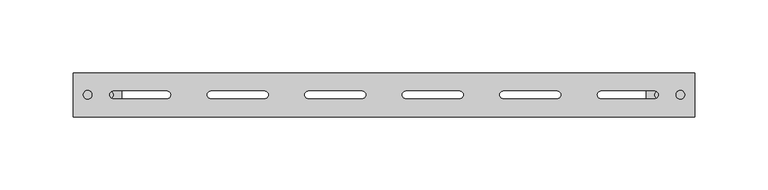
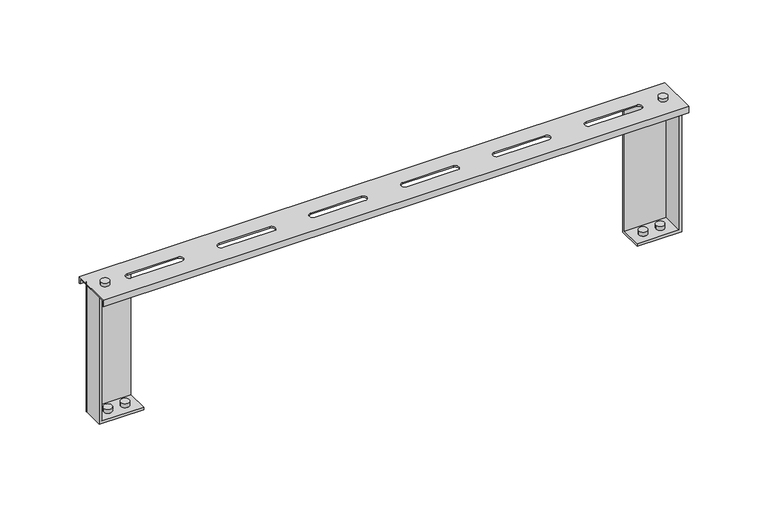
"""IFC4 building model written with IfcOpenShell, lengths in millimetres: cable carrier fitting geometry, CCT_Hyperline_FBTR_EFS_Опора_для_установки_оптического_лотка : Опора для установки оптического лотка."""

import ifcopenshell
import ifcopenshell.guid

model = None  # the IFC model being written
_history = None  # IfcOwnerHistory: only IFC2X3 demands one
_inside = {}  # id of a spatial element -> (the spatial element, [elements in it])
_under = {}  # id of a project, library or spatial element -> (it, [spatial elements below it])
_declared = {}  # id of a project -> (the project, [libraries it declares])
_typed = {}  # id of a type object -> (the type object, [elements of that type])
_made_of = {}  # id of a material, layer set ... -> (it, [elements and type objects made of it])


def new_model(schema):
    """Start an empty IFC model of exactly this schema.

    Asked for "IFC4X3", IfcOpenShell would pick the latest addendum, in which some entities
    have other attributes; the version numbers below select the first issue.
    IFC2X3 requires an IfcOwnerHistory on every rooted entity: one is made here for all.
    """
    global model, _history
    if schema == "IFC4X3":
        model = ifcopenshell.file(schema_version=(4, 3, 0, 0))
    else:
        model = ifcopenshell.file(schema=schema)
    _inside.clear()
    _under.clear()
    _declared.clear()
    _typed.clear()
    _made_of.clear()
    _history = None
    if model.schema == "IFC2X3":
        org = make("IfcOrganization", Name="unknown")
        user = make(
            "IfcPersonAndOrganization",
            ThePerson=make("IfcPerson", FamilyName="unknown"),
            TheOrganization=org,
        )
        app = make(
            "IfcApplication",
            ApplicationDeveloper=org,
            Version="unknown",
            ApplicationFullName="unknown",
            ApplicationIdentifier="unknown",
        )
        _history = make(
            "IfcOwnerHistory",
            OwningUser=user,
            OwningApplication=app,
            ChangeAction="ADDED",
            CreationDate=0,
        )
    return model


def make(cls, **values):
    """One entity of the class cls with the attributes given. An attribute that is None is left unset."""
    return model.create_entity(
        cls, **{name: value for name, value in values.items() if value is not None}
    )


def rooted(cls, **values):
    """An entity with a GlobalId (a new one), such as an element, a storey or a relation."""
    return make(cls, GlobalId=ifcopenshell.guid.new(), OwnerHistory=_history, **values)


def si_unit(unit_type, name, prefix=None):
    """IfcSIUnit, for example si_unit("LENGTHUNIT", "METRE", prefix="MILLI")."""
    return make("IfcSIUnit", UnitType=unit_type, Prefix=prefix, Name=name)


def assignment(units):
    """IfcUnitAssignment: the units of a project."""
    return None if units is None else make("IfcUnitAssignment", Units=units)


def point(xyz):
    """IfcCartesianPoint."""
    return None if xyz is None else make("IfcCartesianPoint", Coordinates=xyz)


def direction(xyz):
    """IfcDirection."""
    return None if xyz is None else make("IfcDirection", DirectionRatios=xyz)


def frame(location, z_axis=None, x_axis=None):
    """IfcAxis2Placement3D, a coordinate frame: its origin and axes. An axis left out is left unset."""
    return make(
        "IfcAxis2Placement3D",
        Location=point(location),
        Axis=direction(z_axis),
        RefDirection=direction(x_axis),
    )


def frame_2d(location, x_axis=None):
    """IfcAxis2Placement2D, a coordinate frame in the plane: its origin and x axis."""
    return make(
        "IfcAxis2Placement2D", Location=point(location), RefDirection=direction(x_axis)
    )


def origin():
    """The frame at (0, 0, 0) with its axes left unset."""
    return frame((0.0, 0.0, 0.0))


def place(relative_to, where):
    """IfcLocalPlacement: puts the frame where relative to a parent placement (None: the world)."""
    return make(
        "IfcLocalPlacement", PlacementRelTo=relative_to, RelativePlacement=where
    )


def context(
    kind, dimensions, precision=None, world=None, true_north=None, identifier=None
):
    """IfcGeometricRepresentationContext, for example the 3D "Model" context."""
    return make(
        "IfcGeometricRepresentationContext",
        ContextIdentifier=identifier,
        ContextType=kind,
        CoordinateSpaceDimension=dimensions,
        Precision=precision,
        WorldCoordinateSystem=world,
        TrueNorth=true_north,
    )


def project(units=None, contexts=None):
    """IfcProject with its units and contexts."""
    return rooted(
        "IfcProject",
        Name="project",
        RepresentationContexts=contexts,
        UnitsInContext=assignment(units),
    )


def spatial(cls, under=None, at=None, **own):
    """A site, building, storey or space (cls), placed at a placement, below another one or the project."""
    s = rooted(cls, ObjectPlacement=at, **own)
    if under is not None:
        _under.setdefault(under.id(), (under, []))[1].append(s)
    return s


def polyline(points):
    """IfcPolyline through the points."""
    return make("IfcPolyline", Points=[point(p) for p in points])


def circle_curve(where, radius):
    """IfcCircle in the frame where."""
    return make("IfcCircle", Position=where, Radius=radius)


def trimmed(basis, trim1, trim2, sense, master):
    """IfcTrimmedCurve: the piece of a basis curve between two trims."""
    return make(
        "IfcTrimmedCurve",
        BasisCurve=basis,
        Trim1=trim1,
        Trim2=trim2,
        SenseAgreement=sense,
        MasterRepresentation=master,
    )


def segment(curve, same_sense, transition):
    """IfcCompositeCurveSegment."""
    return make(
        "IfcCompositeCurveSegment",
        Transition=transition,
        SameSense=same_sense,
        ParentCurve=curve,
    )


def composite_curve(segments, self_intersect=None):
    """IfcCompositeCurve: segments joined end to end."""
    return make("IfcCompositeCurve", Segments=segments, SelfIntersect=self_intersect)


def outline(outer, holes=None, kind="AREA"):
    """IfcArbitraryClosedProfileDef: a profile drawn as a closed curve; with holes, ...WithVoids."""
    if holes is None:
        return make("IfcArbitraryClosedProfileDef", ProfileType=kind, OuterCurve=outer)
    return make(
        "IfcArbitraryProfileDefWithVoids",
        ProfileType=kind,
        OuterCurve=outer,
        InnerCurves=holes,
    )


def extrude(swept, where, along, depth):
    """IfcExtrudedAreaSolid: the profile swept, set in the frame where, extruded along a direction by depth."""
    return make(
        "IfcExtrudedAreaSolid",
        SweptArea=swept,
        Position=where,
        ExtrudedDirection=direction(along),
        Depth=depth,
    )


def shape(context_of_items, identifier, shape_type, items):
    """IfcShapeRepresentation: the items that make up one representation, for example the "Body"."""
    return make(
        "IfcShapeRepresentation",
        ContextOfItems=context_of_items,
        RepresentationIdentifier=identifier,
        RepresentationType=shape_type,
        Items=items,
    )


def source(mapping_origin, context_of_items, identifier, shape_type, items):
    """IfcRepresentationMap: a shape defined once, which mapped items show again and again."""
    return make(
        "IfcRepresentationMap",
        MappingOrigin=mapping_origin,
        MappedRepresentation=shape(context_of_items, identifier, shape_type, items),
    )


def transform(
    local_origin,
    x_axis=None,
    y_axis=None,
    z_axis=None,
    scale=None,
    scale2=None,
    scale3=None,
    uniform=True,
):
    """IfcCartesianTransformationOperator3D, or its non-uniform kind. x_axis, y_axis, z_axis: its Axis1, 2, 3."""
    if uniform:
        return make(
            "IfcCartesianTransformationOperator3D",
            Axis1=direction(x_axis),
            Axis2=direction(y_axis),
            LocalOrigin=point(local_origin),
            Scale=scale,
            Axis3=direction(z_axis),
        )
    return make(
        "IfcCartesianTransformationOperator3DnonUniform",
        Axis1=direction(x_axis),
        Axis2=direction(y_axis),
        LocalOrigin=point(local_origin),
        Scale=scale,
        Axis3=direction(z_axis),
        Scale2=scale2,
        Scale3=scale3,
    )


def mapped(mapping_source, mapping_target):
    """IfcMappedItem: shows the shape of a source again, moved by a transform."""
    return make(
        "IfcMappedItem", MappingSource=mapping_source, MappingTarget=mapping_target
    )


def made_of(thing, what):
    """Note that an element or type object is made of a material, layer set ...; save() writes the relation."""
    if what is not None:
        _made_of.setdefault(what.id(), (what, []))[1].append(thing)
    return thing


def element(
    cls,
    number,
    at=None,
    inside=None,
    cuts=None,
    type_object=None,
    material=None,
    context=None,
    identifier="Body",
    shape_type=None,
    held_by="IfcProductDefinitionShape",
    body=None,
    shapes=None,
    **own,
):
    """One element of the class cls, such as IfcWall. Its Tag is "e" and its number.

    at: its placement. inside: the storey or other place that contains it. cuts: it is an
    opening in that element (IfcRelVoidsElement). A single representation is given by context,
    identifier, shape_type and body (its items); several are given by shapes. held_by: the class
    of the entity that holds the representations. save() writes the other relations.
    """
    e = rooted(cls, Tag="e%d" % number, ObjectPlacement=at, **own)
    if body is not None:
        shapes = [shape(context, identifier, shape_type, body)]
    if shapes is not None:
        e.Representation = make(held_by, Representations=shapes)
    if inside is not None:
        _inside.setdefault(inside.id(), (inside, []))[1].append(e)
    if cuts is not None:
        rooted(
            "IfcRelVoidsElement", RelatingBuildingElement=cuts, RelatedOpeningElement=e
        )
    if type_object is not None:
        _typed.setdefault(type_object.id(), (type_object, []))[1].append(e)
    return made_of(e, material)


def aggregate(whole, parts):
    """IfcRelAggregates: a whole, such as a stair, and the parts it consists of."""
    return rooted("IfcRelAggregates", RelatingObject=whole, RelatedObjects=parts)


def save(model, path):
    """Write the relations noted so far, then the file.

    IfcRelAggregates (storeys below a building ...), IfcRelContainedInSpatialStructure (elements
    in a storey), IfcRelDefinesByType, IfcRelAssociatesMaterial and IfcRelDeclares: one each for
    every whole, place, type object, material and project.
    """
    for whole, parts in _under.values():
        aggregate(whole, parts)
    for where, things in _inside.values():
        rooted(
            "IfcRelContainedInSpatialStructure",
            RelatedElements=things,
            RelatingStructure=where,
        )
    for kind, things in _typed.values():
        rooted("IfcRelDefinesByType", RelatedObjects=things, RelatingType=kind)
    for what, things in _made_of.values():
        rooted("IfcRelAssociatesMaterial", RelatedObjects=things, RelatingMaterial=what)
    for by, libraries in _declared.values():
        rooted("IfcRelDeclares", RelatingContext=by, RelatedDefinitions=libraries)
    model.write(path)


def plane_surface(at):
    """IfcPlane: the flat surface through the origin of the frame at, square to its z axis."""
    return make("IfcPlane", Position=at)


def cylinder_surface(at, radius):
    """IfcCylindricalSurface: all points at the distance radius from the z axis of the frame at."""
    return make("IfcCylindricalSurface", Position=at, Radius=radius)


def revolved_surface(curve, axis_point, axis_direction):
    """IfcSurfaceOfRevolution: the curve turned about the line through axis_point along axis_direction."""
    return make(
        "IfcSurfaceOfRevolution",
        SweptCurve=make("IfcArbitraryOpenProfileDef", ProfileType="CURVE", Curve=curve),
        AxisPosition=make("IfcAxis1Placement", Location=point(axis_point), Axis=direction(axis_direction)),
    )


def advanced_brep(points, edges, surfaces, faces):
    """IfcAdvancedBrep: a solid bounded by faces that lie on surfaces and meet in shared edges.

    An edge is (start, end): straight between two places in points (the first is 0);
    or (start, end, curve); or (start, end, curve, False) where it runs against its curve.
    A face is (place in surfaces, loops), or (place, loops, False) where it looks against
    its surface's normal. A loop lists edges by number (the first is 1), with a minus sign
    where the edge is run from its end to its start. The first loop is the outer one.
    """
    corners = [point(p) for p in points]
    vertices = [make("IfcVertexPoint", VertexGeometry=c) for c in corners]
    made = []
    for start, end, *more in edges:
        made.append(
            make(
                "IfcEdgeCurve",
                EdgeStart=vertices[start],
                EdgeEnd=vertices[end],
                EdgeGeometry=more[0] if more else make("IfcPolyline", Points=[corners[start], corners[end]]),
                SameSense=more[1] if len(more) > 1 else True,
            )
        )
    hull = []
    for where, loops, *sense in faces:
        bounds = []
        for j, loop in enumerate(loops):
            ring = [make("IfcOrientedEdge", EdgeElement=made[abs(k) - 1], Orientation=k > 0) for k in loop]
            bounds.append(
                make(
                    "IfcFaceOuterBound" if j == 0 else "IfcFaceBound",
                    Bound=make("IfcEdgeLoop", EdgeList=ring),
                    Orientation=True,
                )
            )
        hull.append(make("IfcAdvancedFace", Bounds=bounds, FaceSurface=surfaces[where], SameSense=sense[0] if sense else True))
    return make("IfcAdvancedBrep", Outer=make("IfcClosedShell", CfsFaces=hull))


def cable_carrier_fitting_59de4e2b(model_context):
    return source(origin(), model_context, "Body", "SolidModel", [
        advanced_brep(
        [(179.2573593, 10.0, 99.0), (179.2573593, 8.0, 99.0), (209.5, 8.0, 99.0), (209.5, -8.0, 99.0), (211.5, -8.0, 99.0), (211.5, 7.8786797, 99.0), (209.3786797, 10.0, 99.0), (211.5, 7.8786797, 2.0), (209.3786797, 10.0, 2.0), (209.5, 8.0, 2.0), (209.5, -8.0, 2.0), (179.2573593, 8.0, 2.0), (179.2573593, -8.0, 2.0), (191.1286617, 0.0, 2.0), (185.1286617, 0.0, 2.0), (203.6286976, 0.0, 2.0), (197.6286976, 0.0, 2.0), (179.2573593, -8.0, 0.0), (179.2573593, 10.0, 0.0), (209.3786797, 10.0, 0.0), (211.5, 7.8786797, 0.0), (211.5, -8.0, 0.0), (185.1286617, 0.0, 0.0), (191.1286617, 0.0, 0.0), (197.6286976, 0.0, 0.0), (203.6286976, 0.0, 0.0), (191.1286617, 0.0, 5.0), (185.1286617, 0.0, 5.0), (191.1286617, 0.0, -3.0), (185.1286617, 0.0, -3.0), (197.6286976, 0.0, 5.0), (203.6286976, 0.0, 5.0), (197.6286976, 0.0, -3.0), (203.6286976, 0.0, -3.0)],
        [
            (0, 1),
            (1, 2),
            (2, 3),
            (3, 4),
            (4, 5),
            (5, 6, circle_curve(frame((209.3786797, 7.8786797, 99.0), z_axis=(0.0, 0.0, 1.0), x_axis=(-1.0, 0.0, 0.0)), 2.1213203)),
            (6, 0),
            (5, 7),
            (7, 8, circle_curve(frame((209.3786797, 7.8786797, 2.0), z_axis=(0.0, 0.0, 1.0), x_axis=(-1.0, 0.0, 0.0)), 2.1213203)),
            (8, 6),
            (2, 9),
            (9, 10),
            (10, 3),
            (1, 11),
            (11, 9),
            (12, 10),
            (11, 12),
            (13, 14, circle_curve(frame((188.1286617, 0.0, 2.0), z_axis=(0.0, 0.0, -1.0), x_axis=(-1.0, 0.0, 0.0)), 3.0)),
            (14, 13, circle_curve(frame((188.1286617, 0.0, 2.0), z_axis=(0.0, 0.0, -1.0), x_axis=(-1.0, 0.0, 0.0)), 3.0)),
            (15, 16, circle_curve(frame((200.6286976, 0.0, 2.0), z_axis=(0.0, 0.0, -1.0), x_axis=(1.0, 0.0, 0.0)), 3.0)),
            (16, 15, circle_curve(frame((200.6286976, 0.0, 2.0), z_axis=(0.0, 0.0, -1.0), x_axis=(1.0, 0.0, 0.0)), 3.0)),
            (17, 18),
            (18, 19),
            (19, 20, circle_curve(frame((209.3786797, 7.8786797, 0.0), z_axis=(0.0, 0.0, -1.0), x_axis=(-1.0, 0.0, 0.0)), 2.1213203)),
            (20, 21),
            (21, 17),
            (22, 23, circle_curve(frame((188.1286617, 0.0, 0.0), z_axis=(0.0, 0.0, 1.0), x_axis=(-1.0, 0.0, 0.0)), 3.0)),
            (23, 22, circle_curve(frame((188.1286617, 0.0, 0.0), z_axis=(0.0, 0.0, 1.0), x_axis=(-1.0, 0.0, 0.0)), 3.0)),
            (24, 25, circle_curve(frame((200.6286976, 0.0, 0.0), z_axis=(0.0, 0.0, 1.0), x_axis=(1.0, 0.0, 0.0)), 3.0)),
            (25, 24, circle_curve(frame((200.6286976, 0.0, 0.0), z_axis=(0.0, 0.0, 1.0), x_axis=(1.0, 0.0, 0.0)), 3.0)),
            (17, 12),
            (0, 18),
            (8, 19),
            (7, 20),
            (4, 21),
            (26, 27, circle_curve(frame((188.1286617, 0.0, 5.0), z_axis=(0.0, 0.0, 1.0), x_axis=(-1.0, 0.0, 0.0)), 3.0)),
            (27, 26, circle_curve(frame((188.1286617, 0.0, 5.0), z_axis=(0.0, 0.0, 1.0), x_axis=(-1.0, 0.0, 0.0)), 3.0)),
            (28, 29, circle_curve(frame((188.1286617, 0.0, -3.0), z_axis=(0.0, 0.0, -1.0), x_axis=(-1.0, 0.0, 0.0)), 3.0)),
            (29, 28, circle_curve(frame((188.1286617, 0.0, -3.0), z_axis=(0.0, 0.0, -1.0), x_axis=(-1.0, 0.0, 0.0)), 3.0)),
            (27, 14),
            (13, 26),
            (28, 23),
            (22, 29),
            (30, 31, circle_curve(frame((200.6286976, 0.0, 5.0), z_axis=(0.0, 0.0, 1.0), x_axis=(1.0, 0.0, 0.0)), 3.0)),
            (31, 30, circle_curve(frame((200.6286976, 0.0, 5.0), z_axis=(0.0, 0.0, 1.0), x_axis=(1.0, 0.0, 0.0)), 3.0)),
            (32, 33, circle_curve(frame((200.6286976, 0.0, -3.0), z_axis=(0.0, 0.0, -1.0), x_axis=(1.0, 0.0, 0.0)), 3.0)),
            (33, 32, circle_curve(frame((200.6286976, 0.0, -3.0), z_axis=(0.0, 0.0, -1.0), x_axis=(1.0, 0.0, 0.0)), 3.0)),
            (30, 16),
            (15, 31),
            (33, 25),
            (24, 32),
        ],
        [
            plane_surface(frame((179.2573593, 8.0, 99.0), z_axis=(0.0, 0.0, 1.0), x_axis=(0.0, -1.0, 0.0))),
            cylinder_surface(frame((209.3786797, 7.8786797, 2.0), z_axis=(0.0, 0.0, 1.0), x_axis=(-1.0, 0.0, 0.0)), 2.1213203),
            plane_surface(frame((209.5, 8.0, 99.0), z_axis=(-1.0, 0.0, 0.0), x_axis=(0.0, 0.0, -1.0))),
            plane_surface(frame((179.2573593, 8.0, 99.0), z_axis=(0.0, -1.0, 0.0), x_axis=(0.0, 0.0, -1.0))),
            plane_surface(frame((211.5, -8.0, 2.0), z_axis=(0.0, 0.0, 1.0), x_axis=(1.0, 0.0, 0.0))),
            plane_surface(frame((211.5, -8.0, 0.0), z_axis=(0.0, 0.0, -1.0), x_axis=(-1.0, 0.0, 0.0))),
            plane_surface(frame((179.2573593, 10.0, 2.0), z_axis=(-1.0, 0.0, 0.0), x_axis=(0.0, 0.0, -1.0))),
            plane_surface(frame((209.3786797, 10.0, 2.0), z_axis=(0.0, 1.0, 0.0), x_axis=(0.0, 0.0, -1.0))),
            cylinder_surface(frame((209.3786797, 7.8786797, 0.0), z_axis=(0.0, 0.0, 1.0), x_axis=(-1.0, 0.0, 0.0)), 2.1213203),
            plane_surface(frame((211.5, -8.0, 2.0), z_axis=(1.0, 0.0, 0.0), x_axis=(0.0, 0.0, -1.0))),
            plane_surface(frame((179.2573593, -8.0, 2.0), z_axis=(0.0, -1.0, 0.0), x_axis=(0.0, 0.0, -1.0))),
            plane_surface(frame((185.1286617, 0.0, 5.0), z_axis=(0.0, 0.0, 1.0), x_axis=(0.0, -1.0, 0.0))),
            plane_surface(frame((185.1286617, 0.0, -3.0), z_axis=(0.0, 0.0, -1.0), x_axis=(0.0, 1.0, 0.0))),
            cylinder_surface(frame((188.1286617, 0.0, -3.0), z_axis=(0.0, 0.0, 1.0), x_axis=(-1.0, 0.0, 0.0)), 3.0),
            plane_surface(frame((203.6286976, 0.0, 5.0), z_axis=(0.0, 0.0, 1.0), x_axis=(0.0, 1.0, 0.0))),
            plane_surface(frame((203.6286976, 0.0, -3.0), z_axis=(0.0, 0.0, -1.0), x_axis=(0.0, -1.0, 0.0))),
            cylinder_surface(frame((200.6286976, 0.0, -3.0), z_axis=(0.0, 0.0, 1.0), x_axis=(1.0, 0.0, 0.0)), 3.0),
        ],
        [
            (0, [[1, 2, 3, 4, 5, 6, 7]]),
            (1, [[-6, 8, 9, 10]]),
            (2, [[-3, 11, 12, 13]]),
            (3, [[-2, 14, 15, -11]]),
            (4, [[16, -12, -15, 17], [18, 19], [20, 21]]),
            (5, [[22, 23, 24, 25, 26], [27, 28], [29, 30]]),
            (6, [[-22, 31, -17, -14, -1, 32]]),
            (7, [[-23, -32, -7, -10, 33]]),
            (8, [[-24, -33, -9, 34]]),
            (9, [[-25, -34, -8, -5, 35]]),
            (10, [[-26, -35, -4, -13, -16, -31]]),
            (11, [[36, 37]]),
            (12, [[38, 39]]),
            (13, [[-37, 40, -18, 41]]),
            (13, [[-38, 42, -27, 43]]),
            (13, [[-36, -41, -19, -40]]),
            (13, [[-39, -43, -28, -42]]),
            (14, [[44, 45]]),
            (15, [[46, 47]]),
            (16, [[-44, 48, -20, 49]]),
            (16, [[-47, 50, -29, 51]]),
            (16, [[-45, -49, -21, -48]]),
            (16, [[-46, -51, -30, -50]]),
        ],
    ),
        advanced_brep(
        [(-179.2573593, 10.0, 99.0), (-209.3786797, 10.0, 99.0), (-211.5, 7.8786797, 99.0), (-211.5, -8.0, 99.0), (-209.5, -8.0, 99.0), (-209.5, 8.0, 99.0), (-179.2573593, 8.0, 99.0), (-209.3786797, 10.0, 2.0), (-211.5, 7.8786797, 2.0), (-209.5, -8.0, 2.0), (-209.5, 8.0, 2.0), (-179.2573593, 8.0, 2.0), (-179.2573593, -8.0, 2.0), (-197.6286976, 0.0, 2.0), (-203.6286976, 0.0, 2.0), (-185.1286617, 0.0, 2.0), (-191.1286617, 0.0, 2.0), (-179.2573593, -8.0, 0.0), (-211.5, -8.0, 0.0), (-211.5, 7.8786797, 0.0), (-209.3786797, 10.0, 0.0), (-179.2573593, 10.0, 0.0), (-191.1286617, 0.0, 0.0), (-185.1286617, 0.0, 0.0), (-203.6286976, 0.0, 0.0), (-197.6286976, 0.0, 0.0), (-197.6286976, 0.0, 5.0), (-203.6286976, 0.0, 5.0), (-197.6286976, 0.0, -3.0), (-203.6286976, 0.0, -3.0), (-191.1286617, 0.0, 5.0), (-185.1286617, 0.0, 5.0), (-191.1286617, 0.0, -3.0), (-185.1286617, 0.0, -3.0)],
        [
            (0, 1),
            (1, 2, circle_curve(frame((-209.3786797, 7.8786797, 99.0), z_axis=(0.0, 0.0, 1.0), x_axis=(1.0, 0.0, 0.0)), 2.1213203)),
            (2, 3),
            (3, 4),
            (4, 5),
            (5, 6),
            (6, 0),
            (1, 7),
            (7, 8, circle_curve(frame((-209.3786797, 7.8786797, 2.0), z_axis=(0.0, 0.0, 1.0), x_axis=(1.0, 0.0, 0.0)), 2.1213203)),
            (8, 2),
            (4, 9),
            (9, 10),
            (10, 5),
            (10, 11),
            (11, 6),
            (12, 11),
            (9, 12),
            (13, 14, circle_curve(frame((-200.6286976, 0.0, 2.0), z_axis=(0.0, 0.0, -1.0), x_axis=(-1.0, 0.0, 0.0)), 3.0)),
            (14, 13, circle_curve(frame((-200.6286976, 0.0, 2.0), z_axis=(0.0, 0.0, -1.0), x_axis=(-1.0, 0.0, 0.0)), 3.0)),
            (15, 16, circle_curve(frame((-188.1286617, 0.0, 2.0), z_axis=(0.0, 0.0, -1.0), x_axis=(1.0, 0.0, 0.0)), 3.0)),
            (16, 15, circle_curve(frame((-188.1286617, 0.0, 2.0), z_axis=(0.0, 0.0, -1.0), x_axis=(1.0, 0.0, 0.0)), 3.0)),
            (17, 18),
            (18, 19),
            (19, 20, circle_curve(frame((-209.3786797, 7.8786797, 0.0), z_axis=(0.0, 0.0, -1.0), x_axis=(1.0, 0.0, 0.0)), 2.1213203)),
            (20, 21),
            (21, 17),
            (22, 23, circle_curve(frame((-188.1286617, 0.0, 0.0), z_axis=(0.0, 0.0, 1.0), x_axis=(1.0, 0.0, 0.0)), 3.0)),
            (23, 22, circle_curve(frame((-188.1286617, 0.0, 0.0), z_axis=(0.0, 0.0, 1.0), x_axis=(1.0, 0.0, 0.0)), 3.0)),
            (24, 25, circle_curve(frame((-200.6286976, 0.0, 0.0), z_axis=(0.0, 0.0, 1.0), x_axis=(-1.0, 0.0, 0.0)), 3.0)),
            (25, 24, circle_curve(frame((-200.6286976, 0.0, 0.0), z_axis=(0.0, 0.0, 1.0), x_axis=(-1.0, 0.0, 0.0)), 3.0)),
            (21, 0),
            (12, 17),
            (20, 7),
            (19, 8),
            (18, 3),
            (26, 27, circle_curve(frame((-200.6286976, 0.0, 5.0), z_axis=(0.0, 0.0, 1.0), x_axis=(-1.0, 0.0, 0.0)), 3.0)),
            (27, 26, circle_curve(frame((-200.6286976, 0.0, 5.0), z_axis=(0.0, 0.0, 1.0), x_axis=(-1.0, 0.0, 0.0)), 3.0)),
            (28, 29, circle_curve(frame((-200.6286976, 0.0, -3.0), z_axis=(0.0, 0.0, -1.0), x_axis=(-1.0, 0.0, 0.0)), 3.0)),
            (29, 28, circle_curve(frame((-200.6286976, 0.0, -3.0), z_axis=(0.0, 0.0, -1.0), x_axis=(-1.0, 0.0, 0.0)), 3.0)),
            (27, 14),
            (13, 26),
            (28, 25),
            (24, 29),
            (30, 31, circle_curve(frame((-188.1286617, 0.0, 5.0), z_axis=(0.0, 0.0, 1.0), x_axis=(1.0, 0.0, 0.0)), 3.0)),
            (31, 30, circle_curve(frame((-188.1286617, 0.0, 5.0), z_axis=(0.0, 0.0, 1.0), x_axis=(1.0, 0.0, 0.0)), 3.0)),
            (32, 33, circle_curve(frame((-188.1286617, 0.0, -3.0), z_axis=(0.0, 0.0, -1.0), x_axis=(1.0, 0.0, 0.0)), 3.0)),
            (33, 32, circle_curve(frame((-188.1286617, 0.0, -3.0), z_axis=(0.0, 0.0, -1.0), x_axis=(1.0, 0.0, 0.0)), 3.0)),
            (30, 16),
            (15, 31),
            (33, 23),
            (22, 32),
        ],
        [
            plane_surface(frame((-209.3786797, 10.0, 99.0), z_axis=(0.0, 0.0, 1.0), x_axis=(-1.0, 0.0, 0.0))),
            cylinder_surface(frame((-209.3786797, 7.8786797, 2.0), z_axis=(0.0, 0.0, 1.0), x_axis=(1.0, 0.0, 0.0)), 2.1213203),
            plane_surface(frame((-209.5, -8.0, 99.0), z_axis=(1.0, 0.0, 0.0), x_axis=(0.0, 0.0, -1.0))),
            plane_surface(frame((-209.5, 8.0, 99.0), z_axis=(0.0, -1.0, 0.0), x_axis=(0.0, 0.0, -1.0))),
            plane_surface(frame((-179.2573593, -8.0, 2.0), z_axis=(0.0, 0.0, 1.0), x_axis=(0.0, 1.0, 0.0))),
            plane_surface(frame((-179.2573593, -8.0, 0.0), z_axis=(0.0, 0.0, -1.0), x_axis=(0.0, -1.0, 0.0))),
            plane_surface(frame((-179.2573593, -8.0, 2.0), z_axis=(1.0, 0.0, 0.0), x_axis=(0.0, 0.0, -1.0))),
            plane_surface(frame((-179.2573593, 10.0, 2.0), z_axis=(0.0, 1.0, 0.0), x_axis=(0.0, 0.0, -1.0))),
            cylinder_surface(frame((-209.3786797, 7.8786797, 0.0), z_axis=(0.0, 0.0, 1.0), x_axis=(1.0, 0.0, 0.0)), 2.1213203),
            plane_surface(frame((-211.5, 7.8786797, 2.0), z_axis=(-1.0, 0.0, 0.0), x_axis=(0.0, 0.0, -1.0))),
            plane_surface(frame((-211.5, -8.0, 2.0), z_axis=(0.0, -1.0, 0.0), x_axis=(0.0, 0.0, -1.0))),
            plane_surface(frame((-203.6286976, 0.0, 5.0), z_axis=(0.0, 0.0, 1.0), x_axis=(0.0, -1.0, 0.0))),
            plane_surface(frame((-203.6286976, 0.0, -3.0), z_axis=(0.0, 0.0, -1.0), x_axis=(0.0, 1.0, 0.0))),
            cylinder_surface(frame((-200.6286976, 0.0, -3.0), z_axis=(0.0, 0.0, 1.0), x_axis=(-1.0, 0.0, 0.0)), 3.0),
            plane_surface(frame((-185.1286617, 0.0, 5.0), z_axis=(0.0, 0.0, 1.0), x_axis=(0.0, 1.0, 0.0))),
            plane_surface(frame((-185.1286617, 0.0, -3.0), z_axis=(0.0, 0.0, -1.0), x_axis=(0.0, -1.0, 0.0))),
            cylinder_surface(frame((-188.1286617, 0.0, -3.0), z_axis=(0.0, 0.0, 1.0), x_axis=(1.0, 0.0, 0.0)), 3.0),
        ],
        [
            (0, [[1, 2, 3, 4, 5, 6, 7]]),
            (1, [[-2, 8, 9, 10]]),
            (2, [[-5, 11, 12, 13]]),
            (3, [[-6, -13, 14, 15]]),
            (4, [[16, -14, -12, 17], [18, 19], [20, 21]]),
            (5, [[22, 23, 24, 25, 26], [27, 28], [29, 30]]),
            (6, [[-26, 31, -7, -15, -16, 32]]),
            (7, [[-25, 33, -8, -1, -31]]),
            (8, [[-24, 34, -9, -33]]),
            (9, [[-23, 35, -3, -10, -34]]),
            (10, [[-22, -32, -17, -11, -4, -35]]),
            (11, [[36, 37]]),
            (12, [[38, 39]]),
            (13, [[-37, 40, -18, 41]]),
            (13, [[-38, 42, -29, 43]]),
            (13, [[-36, -41, -19, -40]]),
            (13, [[-39, -43, -30, -42]]),
            (14, [[44, 45]]),
            (15, [[46, 47]]),
            (16, [[-44, 48, -20, 49]]),
            (16, [[-47, 50, -27, 51]]),
            (16, [[-45, -49, -21, -48]]),
            (16, [[-46, -51, -28, -50]]),
        ],
    ),
        extrude(outline(composite_curve([segment(trimmed(circle_curve(frame_2d((-202.6286976, 0.0)), 3.0), [point((-199.6286976, 0.0))], [point((-205.6286976, 0.0))], False, "CARTESIAN"), True, "CONTINUOUS"), segment(trimmed(circle_curve(frame_2d((-202.6286976, 0.0)), 3.0), [point((-205.6286976, 0.0))], [point((-199.6286976, 0.0))], False, "CARTESIAN"), True, "CONTINUOUS")], self_intersect=False)), frame((0.0, 0.0, 100.0), z_axis=(0.0, 0.0, 1.0), x_axis=(1.0, 0.0, 0.0)), (0.0, 0.0, 1.0), 2.5),
        extrude(outline(composite_curve([segment(trimmed(circle_curve(frame_2d((202.6286976, 0.0)), 3.0), [point((199.6286976, 0.0))], [point((205.6286976, 0.0))], False, "CARTESIAN"), True, "CONTINUOUS"), segment(trimmed(circle_curve(frame_2d((202.6286976, 0.0)), 3.0), [point((205.6286976, 0.0))], [point((199.6286976, 0.0))], False, "CARTESIAN"), True, "CONTINUOUS")], self_intersect=False)), frame((0.0, 0.0, 100.0), z_axis=(0.0, 0.0, 1.0), x_axis=(1.0, 0.0, 0.0)), (0.0, 0.0, 1.0), 2.5),
        advanced_brep(
        [(-212.5, -15.0, 100.0), (-212.5, 15.0, 100.0), (-212.5, 15.0, 95.0), (-212.5, 14.0, 95.0), (-212.5, 14.0, 99.0), (-212.5, -14.0, 99.0), (-212.5, -14.0, 95.0), (-212.5, -15.0, 95.0), (212.5, -15.0, 100.0), (212.5, 15.0, 100.0), (81.6666667, 2.5, 100.0), (118.3333333, 2.5, 100.0), (118.3333333, -2.5, 100.0), (81.6666667, -2.5, 100.0), (-51.6666667, 2.5, 100.0), (-15.0, 2.5, 100.0), (-15.0, -2.5, 100.0), (-51.6666667, -2.5, 100.0), (15.0, 2.5, 100.0), (51.6666667, 2.5, 100.0), (51.6666667, -2.5, 100.0), (15.0, -2.5, 100.0), (148.3333333, 2.5, 100.0), (185.0, 2.5, 100.0), (185.0, -2.5, 100.0), (148.3333333, -2.5, 100.0), (-118.3333333, 2.5, 100.0), (-81.6666667, 2.5, 100.0), (-81.6666667, -2.5, 100.0), (-118.3333333, -2.5, 100.0), (-185.0, 2.5, 100.0), (-148.3333333, 2.5, 100.0), (-148.3333333, -2.5, 100.0), (-185.0, -2.5, 100.0), (212.5, 14.0, 99.0), (212.5, -14.0, 99.0), (-15.0, 2.5, 99.0), (-51.6666667, 2.5, 99.0), (-51.6666667, -2.5, 99.0), (-15.0, -2.5, 99.0), (51.6666667, 2.5, 99.0), (15.0, 2.5, 99.0), (15.0, -2.5, 99.0), (51.6666667, -2.5, 99.0), (118.3333333, 2.5, 99.0), (81.6666667, 2.5, 99.0), (81.6666667, -2.5, 99.0), (118.3333333, -2.5, 99.0), (185.0, 2.5, 99.0), (148.3333333, 2.5, 99.0), (148.3333333, -2.5, 99.0), (185.0, -2.5, 99.0), (-81.6666667, 2.5, 99.0), (-118.3333333, 2.5, 99.0), (-118.3333333, -2.5, 99.0), (-81.6666667, -2.5, 99.0), (-148.3333333, 2.5, 99.0), (-185.0, 2.5, 99.0), (-185.0, -2.5, 99.0), (-148.3333333, -2.5, 99.0), (212.5, -14.0, 95.0), (212.5, -15.0, 95.0), (212.5, 14.0, 95.0), (212.5, 15.0, 95.0)],
        [
            (0, 1),
            (1, 2),
            (2, 3),
            (3, 4),
            (4, 5),
            (5, 6),
            (6, 7),
            (7, 0),
            (0, 8),
            (8, 9),
            (9, 1),
            (10, 11),
            (11, 12, circle_curve(frame((118.3333333, 0.0, 100.0), z_axis=(0.0, 0.0, -1.0), x_axis=(1.0, 0.0, 0.0)), 2.5)),
            (12, 13),
            (13, 10, circle_curve(frame((81.6666667, 0.0, 100.0), z_axis=(0.0, 0.0, -1.0), x_axis=(1.0, 0.0, 0.0)), 2.5)),
            (14, 15),
            (15, 16, circle_curve(frame((-15.0, 0.0, 100.0), z_axis=(0.0, 0.0, -1.0), x_axis=(1.0, 0.0, 0.0)), 2.5)),
            (16, 17),
            (17, 14, circle_curve(frame((-51.6666667, 0.0, 100.0), z_axis=(0.0, 0.0, -1.0), x_axis=(1.0, 0.0, 0.0)), 2.5)),
            (18, 19),
            (19, 20, circle_curve(frame((51.6666667, 0.0, 100.0), z_axis=(0.0, 0.0, -1.0), x_axis=(1.0, 0.0, 0.0)), 2.5)),
            (20, 21),
            (21, 18, circle_curve(frame((15.0, 0.0, 100.0), z_axis=(0.0, 0.0, -1.0), x_axis=(1.0, 0.0, 0.0)), 2.5)),
            (22, 23),
            (23, 24, circle_curve(frame((185.0, 0.0, 100.0), z_axis=(0.0, 0.0, -1.0), x_axis=(1.0, 0.0, 0.0)), 2.5)),
            (24, 25),
            (25, 22, circle_curve(frame((148.3333333, 0.0, 100.0), z_axis=(0.0, 0.0, -1.0), x_axis=(1.0, 0.0, 0.0)), 2.5)),
            (26, 27),
            (27, 28, circle_curve(frame((-81.6666667, 0.0, 100.0), z_axis=(0.0, 0.0, -1.0), x_axis=(1.0, 0.0, 0.0)), 2.5)),
            (28, 29),
            (29, 26, circle_curve(frame((-118.3333333, 0.0, 100.0), z_axis=(0.0, 0.0, -1.0), x_axis=(1.0, 0.0, 0.0)), 2.5)),
            (30, 31),
            (31, 32, circle_curve(frame((-148.3333333, 0.0, 100.0), z_axis=(0.0, 0.0, -1.0), x_axis=(1.0, 0.0, 0.0)), 2.5)),
            (32, 33),
            (33, 30, circle_curve(frame((-185.0, 0.0, 100.0), z_axis=(0.0, 0.0, -1.0), x_axis=(1.0, 0.0, 0.0)), 2.5)),
            (4, 34),
            (34, 35),
            (35, 5),
            (36, 37),
            (37, 38, circle_curve(frame((-51.6666667, 0.0, 99.0), z_axis=(0.0, 0.0, 1.0), x_axis=(1.0, 0.0, 0.0)), 2.5)),
            (38, 39),
            (39, 36, circle_curve(frame((-15.0, 0.0, 99.0), z_axis=(0.0, 0.0, 1.0), x_axis=(1.0, 0.0, 0.0)), 2.5)),
            (40, 41),
            (41, 42, circle_curve(frame((15.0, 0.0, 99.0), z_axis=(0.0, 0.0, 1.0), x_axis=(1.0, 0.0, 0.0)), 2.5)),
            (42, 43),
            (43, 40, circle_curve(frame((51.6666667, 0.0, 99.0), z_axis=(0.0, 0.0, 1.0), x_axis=(1.0, 0.0, 0.0)), 2.5)),
            (44, 45),
            (45, 46, circle_curve(frame((81.6666667, 0.0, 99.0), z_axis=(0.0, 0.0, 1.0), x_axis=(1.0, 0.0, 0.0)), 2.5)),
            (46, 47),
            (47, 44, circle_curve(frame((118.3333333, 0.0, 99.0), z_axis=(0.0, 0.0, 1.0), x_axis=(1.0, 0.0, 0.0)), 2.5)),
            (48, 49),
            (49, 50, circle_curve(frame((148.3333333, 0.0, 99.0), z_axis=(0.0, 0.0, 1.0), x_axis=(1.0, 0.0, 0.0)), 2.5)),
            (50, 51),
            (51, 48, circle_curve(frame((185.0, 0.0, 99.0), z_axis=(0.0, 0.0, 1.0), x_axis=(1.0, 0.0, 0.0)), 2.5)),
            (52, 53),
            (53, 54, circle_curve(frame((-118.3333333, 0.0, 99.0), z_axis=(0.0, 0.0, 1.0), x_axis=(1.0, 0.0, 0.0)), 2.5)),
            (54, 55),
            (55, 52, circle_curve(frame((-81.6666667, 0.0, 99.0), z_axis=(0.0, 0.0, 1.0), x_axis=(1.0, 0.0, 0.0)), 2.5)),
            (56, 57),
            (57, 58, circle_curve(frame((-185.0, 0.0, 99.0), z_axis=(0.0, 0.0, 1.0), x_axis=(1.0, 0.0, 0.0)), 2.5)),
            (58, 59),
            (59, 56, circle_curve(frame((-148.3333333, 0.0, 99.0), z_axis=(0.0, 0.0, 1.0), x_axis=(1.0, 0.0, 0.0)), 2.5)),
            (35, 60),
            (60, 6),
            (60, 61),
            (61, 7),
            (61, 8),
            (34, 62),
            (62, 63),
            (63, 9),
            (63, 2),
            (62, 3),
            (14, 37),
            (36, 15),
            (17, 38),
            (16, 39),
            (18, 41),
            (40, 19),
            (21, 42),
            (20, 43),
            (10, 45),
            (44, 11),
            (13, 46),
            (12, 47),
            (22, 49),
            (48, 23),
            (25, 50),
            (24, 51),
            (26, 53),
            (52, 27),
            (29, 54),
            (28, 55),
            (30, 57),
            (56, 31),
            (33, 58),
            (32, 59),
        ],
        [
            plane_surface(frame((-212.5, -60.0, 24.0), z_axis=(-1.0, 0.0, 0.0), x_axis=(0.0, 0.0, 1.0))),
            plane_surface(frame((-212.5, -15.0, 100.0), z_axis=(0.0, 0.0, 1.0), x_axis=(1.0, 0.0, 0.0))),
            plane_surface(frame((-212.5, 14.0, 99.0), z_axis=(0.0, 0.0, -1.0), x_axis=(1.0, 0.0, 0.0))),
            plane_surface(frame((-212.5, -14.0, 99.0), z_axis=(0.0, 1.0, 0.0), x_axis=(1.0, 0.0, 0.0))),
            plane_surface(frame((-212.5, -14.0, 95.0), z_axis=(0.0, 0.0, -1.0), x_axis=(1.0, 0.0, 0.0))),
            plane_surface(frame((-212.5, -15.0, 95.0), z_axis=(0.0, -1.0, 0.0), x_axis=(1.0, 0.0, 0.0))),
            plane_surface(frame((212.5, -60.0, 24.0), z_axis=(1.0, 0.0, 0.0), x_axis=(0.0, 0.0, 1.0))),
            plane_surface(frame((-212.5, 15.0, 100.0), z_axis=(0.0, 1.0, 0.0), x_axis=(1.0, 0.0, 0.0))),
            plane_surface(frame((-212.5, 15.0, 95.0), z_axis=(0.0, 0.0, -1.0), x_axis=(1.0, 0.0, 0.0))),
            plane_surface(frame((-212.5, 14.0, 95.0), z_axis=(0.0, -1.0, 0.0), x_axis=(1.0, 0.0, 0.0))),
            plane_surface(frame((-15.0, 2.5, 100.0), z_axis=(0.0, -1.0, 0.0), x_axis=(0.0, 0.0, -1.0))),
            revolved_surface(polyline([(-49.1666667, 0.0, 100.0), (-49.1666667, 0.0, 99.0)]), (-51.6666667, 0.0, 99.0), (0.0, 0.0, 1.0)),
            plane_surface(frame((-51.6666667, -2.5, 100.0), z_axis=(0.0, 1.0, 0.0), x_axis=(0.0, 0.0, -1.0))),
            revolved_surface(polyline([(-12.5, 0.0, 100.0), (-12.5, 0.0, 99.0)]), (-15.0, 0.0, 99.0), (0.0, 0.0, 1.0)),
            plane_surface(frame((51.6666667, 2.5, 100.0), z_axis=(0.0, -1.0, 0.0), x_axis=(0.0, 0.0, -1.0))),
            revolved_surface(polyline([(17.5, 0.0, 100.0), (17.5, 0.0, 99.0)]), (15.0, 0.0, 99.0), (0.0, 0.0, 1.0)),
            plane_surface(frame((15.0, -2.5, 100.0), z_axis=(0.0, 1.0, 0.0), x_axis=(0.0, 0.0, -1.0))),
            revolved_surface(polyline([(54.1666667, 0.0, 100.0), (54.1666667, 0.0, 99.0)]), (51.6666667, 0.0, 99.0), (0.0, 0.0, 1.0)),
            plane_surface(frame((118.3333333, 2.5, 100.0), z_axis=(0.0, -1.0, 0.0), x_axis=(0.0, 0.0, -1.0))),
            revolved_surface(polyline([(84.1666667, 0.0, 100.0), (84.1666667, 0.0, 99.0)]), (81.6666667, 0.0, 99.0), (0.0, 0.0, 1.0)),
            plane_surface(frame((81.6666667, -2.5, 100.0), z_axis=(0.0, 1.0, 0.0), x_axis=(0.0, 0.0, -1.0))),
            revolved_surface(polyline([(120.8333333, 0.0, 100.0), (120.8333333, 0.0, 99.0)]), (118.3333333, 0.0, 99.0), (0.0, 0.0, 1.0)),
            plane_surface(frame((185.0, 2.5, 100.0), z_axis=(0.0, -1.0, 0.0), x_axis=(0.0, 0.0, -1.0))),
            revolved_surface(polyline([(150.8333333, 0.0, 100.0), (150.8333333, 0.0, 99.0)]), (148.3333333, 0.0, 99.0), (0.0, 0.0, 1.0)),
            plane_surface(frame((148.3333333, -2.5, 100.0), z_axis=(0.0, 1.0, 0.0), x_axis=(0.0, 0.0, -1.0))),
            revolved_surface(polyline([(187.5, 0.0, 100.0), (187.5, 0.0, 99.0)]), (185.0, 0.0, 99.0), (0.0, 0.0, 1.0)),
            plane_surface(frame((-81.6666667, 2.5, 100.0), z_axis=(0.0, -1.0, 0.0), x_axis=(0.0, 0.0, -1.0))),
            revolved_surface(polyline([(-115.8333333, 0.0, 100.0), (-115.8333333, 0.0, 99.0)]), (-118.3333333, 0.0, 99.0), (0.0, 0.0, 1.0)),
            plane_surface(frame((-118.3333333, -2.5, 100.0), z_axis=(0.0, 1.0, 0.0), x_axis=(0.0, 0.0, -1.0))),
            revolved_surface(polyline([(-79.1666667, 0.0, 100.0), (-79.1666667, 0.0, 99.0)]), (-81.6666667, 0.0, 99.0), (0.0, 0.0, 1.0)),
            plane_surface(frame((-148.3333333, 2.5, 100.0), z_axis=(0.0, -1.0, 0.0), x_axis=(0.0, 0.0, -1.0))),
            revolved_surface(polyline([(-182.5, 0.0, 100.0), (-182.5, 0.0, 99.0)]), (-185.0, 0.0, 99.0), (0.0, 0.0, 1.0)),
            plane_surface(frame((-185.0, -2.5, 100.0), z_axis=(0.0, 1.0, 0.0), x_axis=(0.0, 0.0, -1.0))),
            revolved_surface(polyline([(-145.8333333, 0.0, 100.0), (-145.8333333, 0.0, 99.0)]), (-148.3333333, 0.0, 99.0), (0.0, 0.0, 1.0)),
        ],
        [
            (0, [[1, 2, 3, 4, 5, 6, 7, 8]]),
            (1, [[-1, 9, 10, 11], [12, 13, 14, 15], [16, 17, 18, 19], [20, 21, 22, 23], [24, 25, 26, 27], [28, 29, 30, 31], [32, 33, 34, 35]]),
            (2, [[-5, 36, 37, 38], [39, 40, 41, 42], [43, 44, 45, 46], [47, 48, 49, 50], [51, 52, 53, 54], [55, 56, 57, 58], [59, 60, 61, 62]]),
            (3, [[-6, -38, 63, 64]]),
            (4, [[-7, -64, 65, 66]]),
            (5, [[-8, -66, 67, -9]]),
            (6, [[-10, -67, -65, -63, -37, 68, 69, 70]]),
            (7, [[-2, -11, -70, 71]]),
            (8, [[-3, -71, -69, 72]]),
            (9, [[-4, -72, -68, -36]]),
            (10, [[73, -39, 74, -16]]),
            (11, [[-73, -19, 75, -40]]),
            (12, [[-75, -18, 76, -41]]),
            (13, [[-74, -42, -76, -17]]),
            (14, [[77, -43, 78, -20]]),
            (15, [[-77, -23, 79, -44]]),
            (16, [[-79, -22, 80, -45]]),
            (17, [[-78, -46, -80, -21]]),
            (18, [[81, -47, 82, -12]]),
            (19, [[-81, -15, 83, -48]]),
            (20, [[-83, -14, 84, -49]]),
            (21, [[-82, -50, -84, -13]]),
            (22, [[85, -51, 86, -24]]),
            (23, [[-85, -27, 87, -52]]),
            (24, [[-87, -26, 88, -53]]),
            (25, [[-86, -54, -88, -25]]),
            (26, [[89, -55, 90, -28]]),
            (27, [[-89, -31, 91, -56]]),
            (28, [[-91, -30, 92, -57]]),
            (29, [[-90, -58, -92, -29]]),
            (30, [[93, -59, 94, -32]]),
            (31, [[-93, -35, 95, -60]]),
            (32, [[-95, -34, 96, -61]]),
            (33, [[-94, -62, -96, -33]]),
        ],
    ),
    ])


if __name__ == "__main__":
    model = new_model("IFC4")
    model_context = context("Model", 3, world=origin())
    ifc_project = project(units=[si_unit("LENGTHUNIT", "METRE", prefix="MILLI")], contexts=[model_context])
    site = spatial("IfcSite", under=ifc_project)
    building = spatial("IfcBuilding", under=site)
    placement = place(None, origin())
    cable_carrier_fitting_shape = cable_carrier_fitting_59de4e2b(model_context)
    element("IfcCableCarrierFitting", 1, ObjectType="CCT_Hyperline_FBTR_EFS_Опора_для_установки_оптического_лотка : Опора для установки оптического лотка", at=placement, inside=building, context=model_context, shape_type="MappedRepresentation", body=[
        mapped(cable_carrier_fitting_shape, transform((0.0, 0.0, 0.0), x_axis=(1.0, 0.0, 0.0), y_axis=(0.0, 1.0, 0.0), z_axis=(0.0, 0.0, 1.0))),
    ])
    save(model, "model.ifc")
